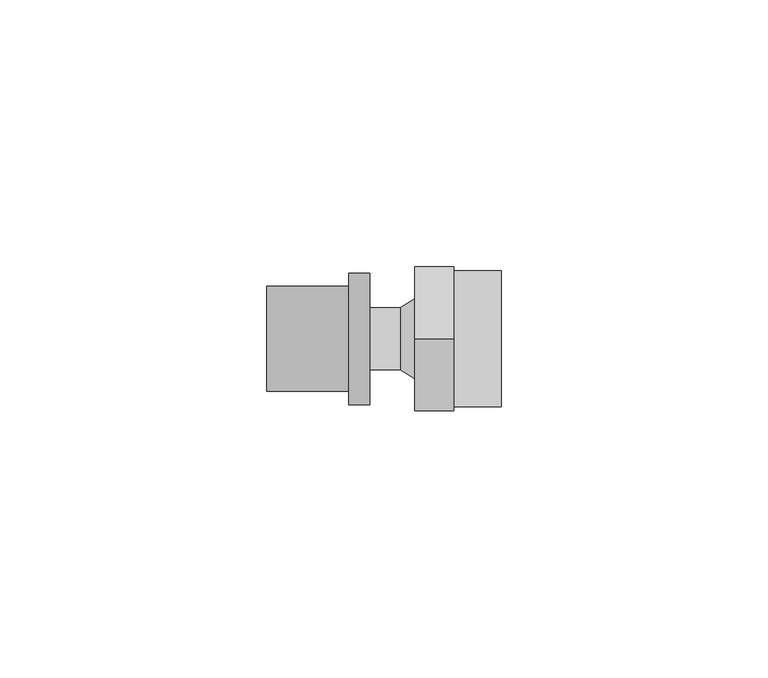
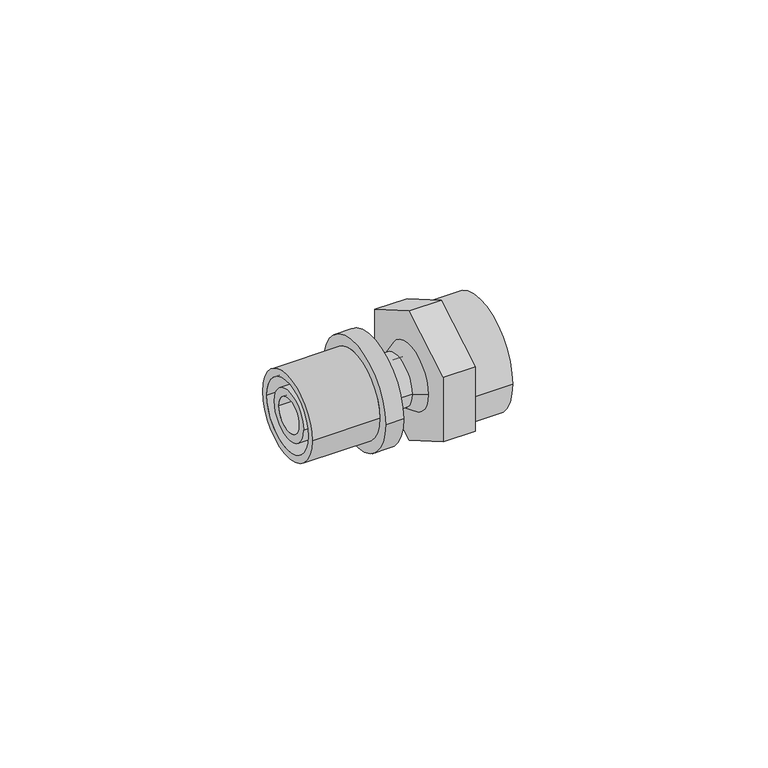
"""IFC4 building model written with IfcOpenShell, lengths in millimetres: pipe fitting geometry, FASTLOC_Adapter_EX+, with internal thread : FSL A internal AT."""

import ifcopenshell
import ifcopenshell.guid

model = None  # the IFC model being written
_history = None  # IfcOwnerHistory: only IFC2X3 demands one
_inside = {}  # id of a spatial element -> (the spatial element, [elements in it])
_under = {}  # id of a project, library or spatial element -> (it, [spatial elements below it])
_declared = {}  # id of a project -> (the project, [libraries it declares])
_typed = {}  # id of a type object -> (the type object, [elements of that type])
_made_of = {}  # id of a material, layer set ... -> (it, [elements and type objects made of it])


def new_model(schema):
    """Start an empty IFC model of exactly this schema.

    Asked for "IFC4X3", IfcOpenShell would pick the latest addendum, in which some entities
    have other attributes; the version numbers below select the first issue.
    IFC2X3 requires an IfcOwnerHistory on every rooted entity: one is made here for all.
    """
    global model, _history
    if schema == "IFC4X3":
        model = ifcopenshell.file(schema_version=(4, 3, 0, 0))
    else:
        model = ifcopenshell.file(schema=schema)
    _inside.clear()
    _under.clear()
    _declared.clear()
    _typed.clear()
    _made_of.clear()
    _history = None
    if model.schema == "IFC2X3":
        org = make("IfcOrganization", Name="unknown")
        user = make(
            "IfcPersonAndOrganization",
            ThePerson=make("IfcPerson", FamilyName="unknown"),
            TheOrganization=org,
        )
        app = make(
            "IfcApplication",
            ApplicationDeveloper=org,
            Version="unknown",
            ApplicationFullName="unknown",
            ApplicationIdentifier="unknown",
        )
        _history = make(
            "IfcOwnerHistory",
            OwningUser=user,
            OwningApplication=app,
            ChangeAction="ADDED",
            CreationDate=0,
        )
    return model


def make(cls, **values):
    """One entity of the class cls with the attributes given. An attribute that is None is left unset."""
    return model.create_entity(
        cls, **{name: value for name, value in values.items() if value is not None}
    )


def rooted(cls, **values):
    """An entity with a GlobalId (a new one), such as an element, a storey or a relation."""
    return make(cls, GlobalId=ifcopenshell.guid.new(), OwnerHistory=_history, **values)


def si_unit(unit_type, name, prefix=None):
    """IfcSIUnit, for example si_unit("LENGTHUNIT", "METRE", prefix="MILLI")."""
    return make("IfcSIUnit", UnitType=unit_type, Prefix=prefix, Name=name)


def assignment(units):
    """IfcUnitAssignment: the units of a project."""
    return None if units is None else make("IfcUnitAssignment", Units=units)


def point(xyz):
    """IfcCartesianPoint."""
    return None if xyz is None else make("IfcCartesianPoint", Coordinates=xyz)


def direction(xyz):
    """IfcDirection."""
    return None if xyz is None else make("IfcDirection", DirectionRatios=xyz)


def frame(location, z_axis=None, x_axis=None):
    """IfcAxis2Placement3D, a coordinate frame: its origin and axes. An axis left out is left unset."""
    return make(
        "IfcAxis2Placement3D",
        Location=point(location),
        Axis=direction(z_axis),
        RefDirection=direction(x_axis),
    )


def frame_2d(location, x_axis=None):
    """IfcAxis2Placement2D, a coordinate frame in the plane: its origin and x axis."""
    return make(
        "IfcAxis2Placement2D", Location=point(location), RefDirection=direction(x_axis)
    )


def origin():
    """The frame at (0, 0, 0) with its axes left unset."""
    return frame((0.0, 0.0, 0.0))


def origin_2d():
    """The frame at (0, 0) in the plane with its x axis left unset."""
    return frame_2d((0.0, 0.0))


def place(relative_to, where):
    """IfcLocalPlacement: puts the frame where relative to a parent placement (None: the world)."""
    return make(
        "IfcLocalPlacement", PlacementRelTo=relative_to, RelativePlacement=where
    )


def context(
    kind, dimensions, precision=None, world=None, true_north=None, identifier=None
):
    """IfcGeometricRepresentationContext, for example the 3D "Model" context."""
    return make(
        "IfcGeometricRepresentationContext",
        ContextIdentifier=identifier,
        ContextType=kind,
        CoordinateSpaceDimension=dimensions,
        Precision=precision,
        WorldCoordinateSystem=world,
        TrueNorth=true_north,
    )


def project(units=None, contexts=None):
    """IfcProject with its units and contexts."""
    return rooted(
        "IfcProject",
        Name="project",
        RepresentationContexts=contexts,
        UnitsInContext=assignment(units),
    )


def spatial(cls, under=None, at=None, **own):
    """A site, building, storey or space (cls), placed at a placement, below another one or the project."""
    s = rooted(cls, ObjectPlacement=at, **own)
    if under is not None:
        _under.setdefault(under.id(), (under, []))[1].append(s)
    return s


def polyline(points):
    """IfcPolyline through the points."""
    return make("IfcPolyline", Points=[point(p) for p in points])


def circle_curve(where, radius):
    """IfcCircle in the frame where."""
    return make("IfcCircle", Position=where, Radius=radius)


def trimmed(basis, trim1, trim2, sense, master):
    """IfcTrimmedCurve: the piece of a basis curve between two trims."""
    return make(
        "IfcTrimmedCurve",
        BasisCurve=basis,
        Trim1=trim1,
        Trim2=trim2,
        SenseAgreement=sense,
        MasterRepresentation=master,
    )


def segment(curve, same_sense, transition):
    """IfcCompositeCurveSegment."""
    return make(
        "IfcCompositeCurveSegment",
        Transition=transition,
        SameSense=same_sense,
        ParentCurve=curve,
    )


def composite_curve(segments, self_intersect=None):
    """IfcCompositeCurve: segments joined end to end."""
    return make("IfcCompositeCurve", Segments=segments, SelfIntersect=self_intersect)


def outline(outer, holes=None, kind="AREA"):
    """IfcArbitraryClosedProfileDef: a profile drawn as a closed curve; with holes, ...WithVoids."""
    if holes is None:
        return make("IfcArbitraryClosedProfileDef", ProfileType=kind, OuterCurve=outer)
    return make(
        "IfcArbitraryProfileDefWithVoids",
        ProfileType=kind,
        OuterCurve=outer,
        InnerCurves=holes,
    )


def extrude(swept, where, along, depth):
    """IfcExtrudedAreaSolid: the profile swept, set in the frame where, extruded along a direction by depth."""
    return make(
        "IfcExtrudedAreaSolid",
        SweptArea=swept,
        Position=where,
        ExtrudedDirection=direction(along),
        Depth=depth,
    )


def shape(context_of_items, identifier, shape_type, items):
    """IfcShapeRepresentation: the items that make up one representation, for example the "Body"."""
    return make(
        "IfcShapeRepresentation",
        ContextOfItems=context_of_items,
        RepresentationIdentifier=identifier,
        RepresentationType=shape_type,
        Items=items,
    )


def source(mapping_origin, context_of_items, identifier, shape_type, items):
    """IfcRepresentationMap: a shape defined once, which mapped items show again and again."""
    return make(
        "IfcRepresentationMap",
        MappingOrigin=mapping_origin,
        MappedRepresentation=shape(context_of_items, identifier, shape_type, items),
    )


def transform(
    local_origin,
    x_axis=None,
    y_axis=None,
    z_axis=None,
    scale=None,
    scale2=None,
    scale3=None,
    uniform=True,
):
    """IfcCartesianTransformationOperator3D, or its non-uniform kind. x_axis, y_axis, z_axis: its Axis1, 2, 3."""
    if uniform:
        return make(
            "IfcCartesianTransformationOperator3D",
            Axis1=direction(x_axis),
            Axis2=direction(y_axis),
            LocalOrigin=point(local_origin),
            Scale=scale,
            Axis3=direction(z_axis),
        )
    return make(
        "IfcCartesianTransformationOperator3DnonUniform",
        Axis1=direction(x_axis),
        Axis2=direction(y_axis),
        LocalOrigin=point(local_origin),
        Scale=scale,
        Axis3=direction(z_axis),
        Scale2=scale2,
        Scale3=scale3,
    )


def mapped(mapping_source, mapping_target):
    """IfcMappedItem: shows the shape of a source again, moved by a transform."""
    return make(
        "IfcMappedItem", MappingSource=mapping_source, MappingTarget=mapping_target
    )


def made_of(thing, what):
    """Note that an element or type object is made of a material, layer set ...; save() writes the relation."""
    if what is not None:
        _made_of.setdefault(what.id(), (what, []))[1].append(thing)
    return thing


def element(
    cls,
    number,
    at=None,
    inside=None,
    cuts=None,
    type_object=None,
    material=None,
    context=None,
    identifier="Body",
    shape_type=None,
    held_by="IfcProductDefinitionShape",
    body=None,
    shapes=None,
    **own,
):
    """One element of the class cls, such as IfcWall. Its Tag is "e" and its number.

    at: its placement. inside: the storey or other place that contains it. cuts: it is an
    opening in that element (IfcRelVoidsElement). A single representation is given by context,
    identifier, shape_type and body (its items); several are given by shapes. held_by: the class
    of the entity that holds the representations. save() writes the other relations.
    """
    e = rooted(cls, Tag="e%d" % number, ObjectPlacement=at, **own)
    if body is not None:
        shapes = [shape(context, identifier, shape_type, body)]
    if shapes is not None:
        e.Representation = make(held_by, Representations=shapes)
    if inside is not None:
        _inside.setdefault(inside.id(), (inside, []))[1].append(e)
    if cuts is not None:
        rooted(
            "IfcRelVoidsElement", RelatingBuildingElement=cuts, RelatedOpeningElement=e
        )
    if type_object is not None:
        _typed.setdefault(type_object.id(), (type_object, []))[1].append(e)
    return made_of(e, material)


def aggregate(whole, parts):
    """IfcRelAggregates: a whole, such as a stair, and the parts it consists of."""
    return rooted("IfcRelAggregates", RelatingObject=whole, RelatedObjects=parts)


def save(model, path):
    """Write the relations noted so far, then the file.

    IfcRelAggregates (storeys below a building ...), IfcRelContainedInSpatialStructure (elements
    in a storey), IfcRelDefinesByType, IfcRelAssociatesMaterial and IfcRelDeclares: one each for
    every whole, place, type object, material and project.
    """
    for whole, parts in _under.values():
        aggregate(whole, parts)
    for where, things in _inside.values():
        rooted(
            "IfcRelContainedInSpatialStructure",
            RelatedElements=things,
            RelatingStructure=where,
        )
    for kind, things in _typed.values():
        rooted("IfcRelDefinesByType", RelatedObjects=things, RelatingType=kind)
    for what, things in _made_of.values():
        rooted("IfcRelAssociatesMaterial", RelatedObjects=things, RelatingMaterial=what)
    for by, libraries in _declared.values():
        rooted("IfcRelDeclares", RelatingContext=by, RelatedDefinitions=libraries)
    model.write(path)


def plane_surface(at):
    """IfcPlane: the flat surface through the origin of the frame at, square to its z axis."""
    return make("IfcPlane", Position=at)


def cylinder_surface(at, radius):
    """IfcCylindricalSurface: all points at the distance radius from the z axis of the frame at."""
    return make("IfcCylindricalSurface", Position=at, Radius=radius)


def revolved_surface(curve, axis_point, axis_direction):
    """IfcSurfaceOfRevolution: the curve turned about the line through axis_point along axis_direction."""
    return make(
        "IfcSurfaceOfRevolution",
        SweptCurve=make("IfcArbitraryOpenProfileDef", ProfileType="CURVE", Curve=curve),
        AxisPosition=make("IfcAxis1Placement", Location=point(axis_point), Axis=direction(axis_direction)),
    )


def advanced_brep(points, edges, surfaces, faces):
    """IfcAdvancedBrep: a solid bounded by faces that lie on surfaces and meet in shared edges.

    An edge is (start, end): straight between two places in points (the first is 0);
    or (start, end, curve); or (start, end, curve, False) where it runs against its curve.
    A face is (place in surfaces, loops), or (place, loops, False) where it looks against
    its surface's normal. A loop lists edges by number (the first is 1), with a minus sign
    where the edge is run from its end to its start. The first loop is the outer one.
    """
    corners = [point(p) for p in points]
    vertices = [make("IfcVertexPoint", VertexGeometry=c) for c in corners]
    made = []
    for start, end, *more in edges:
        made.append(
            make(
                "IfcEdgeCurve",
                EdgeStart=vertices[start],
                EdgeEnd=vertices[end],
                EdgeGeometry=more[0] if more else make("IfcPolyline", Points=[corners[start], corners[end]]),
                SameSense=more[1] if len(more) > 1 else True,
            )
        )
    hull = []
    for where, loops, *sense in faces:
        bounds = []
        for j, loop in enumerate(loops):
            ring = [make("IfcOrientedEdge", EdgeElement=made[abs(k) - 1], Orientation=k > 0) for k in loop]
            bounds.append(
                make(
                    "IfcFaceOuterBound" if j == 0 else "IfcFaceBound",
                    Bound=make("IfcEdgeLoop", EdgeList=ring),
                    Orientation=True,
                )
            )
        hull.append(make("IfcAdvancedFace", Bounds=bounds, FaceSurface=surfaces[where], SameSense=sense[0] if sense else True))
    return make("IfcAdvancedBrep", Outer=make("IfcClosedShell", CfsFaces=hull))


def pipe_fitting_29307240(model_context):
    return source(origin(), model_context, "Body", "SolidModel", [
        advanced_brep(
        [(-12.4, -12.35, 0.0), (-12.4, 12.35, 0.0), (-8.4, 12.35, 0.0), (-8.4, -12.35, 0.0), (-27.7, -9.85, 0.0), (-27.7, 9.85, 0.0), (-12.4, 9.85, 0.0), (-12.4, -9.85, 0.0), (-8.4, -8.15, 0.0), (-8.4, 8.15, 0.0), (-27.7, 8.15, 0.0), (-27.7, -8.15, 0.0)],
        [
            (0, 1, circle_curve(frame((-12.4, 0.0, 0.0), z_axis=(1.0, 0.0, 0.0), x_axis=(0.0, 1.0, 0.0)), 12.35)),
            (1, 2),
            (2, 3, circle_curve(frame((-8.4, 0.0, 0.0), z_axis=(-1.0, 0.0, 0.0), x_axis=(0.0, 1.0, 0.0)), 12.35)),
            (3, 0),
            (4, 5, circle_curve(frame((-27.7, 0.0, 0.0), z_axis=(1.0, 0.0, 0.0), x_axis=(0.0, 1.0, 0.0)), 9.85)),
            (5, 6),
            (6, 7, circle_curve(frame((-12.4, 0.0, 0.0), z_axis=(-1.0, 0.0, 0.0), x_axis=(0.0, 1.0, 0.0)), 9.85)),
            (7, 4),
            (8, 9, circle_curve(frame((-8.4, 0.0, 0.0), z_axis=(1.0, 0.0, 0.0), x_axis=(0.0, 1.0, 0.0)), 8.15)),
            (9, 10),
            (10, 11, circle_curve(frame((-27.7, 0.0, 0.0), z_axis=(-1.0, 0.0, 0.0), x_axis=(0.0, 1.0, 0.0)), 8.15)),
            (11, 8),
            (1, 0, circle_curve(frame((-12.4, 0.0, 0.0), z_axis=(1.0, 0.0, 0.0), x_axis=(0.0, -1.0, 0.0)), 12.35)),
            (3, 2, circle_curve(frame((-8.4, 0.0, 0.0), z_axis=(-1.0, 0.0, 0.0), x_axis=(0.0, -1.0, 0.0)), 12.35)),
            (6, 7, circle_curve(frame((-12.4, 0.0, 0.0), z_axis=(1.0, 0.0, 0.0), x_axis=(0.0, -1.0, 0.0)), 9.85)),
            (5, 4, circle_curve(frame((-27.7, 0.0, 0.0), z_axis=(1.0, 0.0, 0.0), x_axis=(0.0, -1.0, 0.0)), 9.85)),
            (10, 11, circle_curve(frame((-27.7, 0.0, 0.0), z_axis=(1.0, 0.0, 0.0), x_axis=(0.0, -1.0, 0.0)), 8.15)),
            (9, 8, circle_curve(frame((-8.4, 0.0, 0.0), z_axis=(1.0, 0.0, 0.0), x_axis=(0.0, -1.0, 0.0)), 8.15)),
        ],
        [
            cylinder_surface(frame((-8.4, 0.0, 0.0), z_axis=(-1.0, 0.0, 0.0), x_axis=(0.0, 1.0, 0.0)), 12.35),
            cylinder_surface(frame((-8.4, 0.0, 0.0), z_axis=(-1.0, 0.0, 0.0), x_axis=(0.0, 1.0, 0.0)), 9.85),
            revolved_surface(polyline([(-27.699999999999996, 8.15, 0.0), (-8.4, 8.15, 0.0)]), (-8.4, 0.0, 0.0), (-1.0, 0.0, 0.0)),
            cylinder_surface(frame((-8.4, 0.0, 0.0), z_axis=(-1.0, 0.0, 0.0), x_axis=(0.0, -1.0, 0.0)), 12.35),
            plane_surface(frame((-12.4, 0.0, 0.0), z_axis=(-1.0, 0.0, 0.0), x_axis=(0.0, -1.0, 0.0))),
            cylinder_surface(frame((-8.4, 0.0, 0.0), z_axis=(-1.0, 0.0, 0.0), x_axis=(0.0, -1.0, 0.0)), 9.85),
            plane_surface(frame((-27.7, 0.0, 0.0), z_axis=(-1.0, 0.0, 0.0), x_axis=(0.0, -1.0, 0.0))),
            revolved_surface(polyline([(-27.699999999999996, -8.15, 0.0), (-8.4, -8.15, 0.0)]), (-8.4, 0.0, 0.0), (-1.0, 0.0, 0.0)),
            plane_surface(frame((-8.4, 0.0, 0.0), z_axis=(1.0, 0.0, 0.0), x_axis=(0.0, -1.0, 0.0))),
        ],
        [
            (0, [[1, 2, 3, 4]]),
            (1, [[5, 6, 7, 8]]),
            (2, [[9, 10, 11, 12]]),
            (3, [[13, -4, 14, -2]]),
            (4, [[-13, -1], [15, -7]]),
            (5, [[16, -8, -15, -6]]),
            (6, [[-16, -5], [17, -11]]),
            (7, [[18, -12, -17, -10]]),
            (8, [[-14, -3], [-18, -9]]),
        ],
    ),
        advanced_brep(
        [(-12.4, 5.8, 0.0), (-12.4, -5.8, 0.0), (-27.4, -5.8, 0.0), (-27.4, 5.8, 0.0), (-9.7, 7.5, 0.0), (-9.7, -7.5, 0.0), (-12.4, -7.5, 0.0), (-12.4, 7.5, 0.0), (-2.7, 5.8, 0.0), (-2.7, -5.8, 0.0), (-9.7, -5.8, 0.0), (-9.7, 5.8, 0.0), (0.0, 7.5, 0.0), (0.0, -7.5, 0.0), (-27.4, 3.95, 0.0), (-27.4, -3.95, 0.0), (0.0, -3.95, 0.0), (0.0, 3.95, 0.0)],
        [
            (0, 1, circle_curve(frame((-12.4, 0.0, 0.0), z_axis=(-1.0, 0.0, 0.0), x_axis=(0.0, -1.0, 0.0)), 5.8)),
            (1, 2),
            (2, 3, circle_curve(frame((-27.4, 0.0, 0.0), z_axis=(1.0, 0.0, 0.0), x_axis=(0.0, -1.0, 0.0)), 5.8)),
            (3, 0),
            (4, 5, circle_curve(frame((-9.7, 0.0, 0.0), z_axis=(-1.0, 0.0, 0.0), x_axis=(0.0, -1.0, 0.0)), 7.5)),
            (5, 6),
            (6, 7, circle_curve(frame((-12.4, 0.0, 0.0), z_axis=(1.0, 0.0, 0.0), x_axis=(0.0, -1.0, 0.0)), 7.5)),
            (7, 4),
            (8, 9, circle_curve(frame((-2.7, 0.0, 0.0), z_axis=(-1.0, 0.0, 0.0), x_axis=(0.0, -1.0, 0.0)), 5.8)),
            (9, 10),
            (10, 11, circle_curve(frame((-9.7, 0.0, 0.0), z_axis=(1.0, 0.0, 0.0), x_axis=(0.0, -1.0, 0.0)), 5.8)),
            (11, 8),
            (12, 13, circle_curve(frame((0.0, 0.0, 0.0), z_axis=(-1.0, 0.0, 0.0), x_axis=(0.0, -1.0, 0.0)), 7.5)),
            (13, 9),
            (8, 12),
            (14, 15, circle_curve(frame((-27.4, 0.0, 0.0), z_axis=(-1.0, 0.0, 0.0), x_axis=(0.0, -1.0, 0.0)), 3.95)),
            (15, 16),
            (16, 17, circle_curve(frame((0.0, 0.0, 0.0), z_axis=(1.0, 0.0, 0.0), x_axis=(0.0, -1.0, 0.0)), 3.95)),
            (17, 14),
            (2, 3, circle_curve(frame((-27.4, 0.0, 0.0), z_axis=(-1.0, 0.0, 0.0), x_axis=(0.0, 1.0, 0.0)), 5.8)),
            (14, 15, circle_curve(frame((-27.4, 0.0, 0.0), z_axis=(1.0, 0.0, 0.0), x_axis=(0.0, 1.0, 0.0)), 3.95)),
            (1, 0, circle_curve(frame((-12.4, 0.0, 0.0), z_axis=(-1.0, 0.0, 0.0), x_axis=(0.0, 1.0, 0.0)), 5.8)),
            (6, 7, circle_curve(frame((-12.4, 0.0, 0.0), z_axis=(-1.0, 0.0, 0.0), x_axis=(0.0, 1.0, 0.0)), 7.5)),
            (5, 4, circle_curve(frame((-9.7, 0.0, 0.0), z_axis=(-1.0, 0.0, 0.0), x_axis=(0.0, 1.0, 0.0)), 7.5)),
            (10, 11, circle_curve(frame((-9.7, 0.0, 0.0), z_axis=(-1.0, 0.0, 0.0), x_axis=(0.0, 1.0, 0.0)), 5.8)),
            (9, 8, circle_curve(frame((-2.7, 0.0, 0.0), z_axis=(-1.0, 0.0, 0.0), x_axis=(0.0, 1.0, 0.0)), 5.8)),
            (13, 12, circle_curve(frame((0.0, 0.0, 0.0), z_axis=(-1.0, 0.0, 0.0), x_axis=(0.0, 1.0, 0.0)), 7.5)),
            (16, 17, circle_curve(frame((0.0, 0.0, 0.0), z_axis=(-1.0, 0.0, 0.0), x_axis=(0.0, 1.0, 0.0)), 3.95)),
        ],
        [
            cylinder_surface(frame((0.0, 0.0, 0.0), z_axis=(1.0, 0.0, 0.0), x_axis=(0.0, -1.0, 0.0)), 5.8),
            cylinder_surface(frame((0.0, 0.0, 0.0), z_axis=(1.0, 0.0, 0.0), x_axis=(0.0, -1.0, 0.0)), 7.5),
            revolved_surface(polyline([(-2.7, -5.8, 0.0), (0.0, -7.5, 0.0)]), (0.0, 0.0, 0.0), (1.0, 0.0, 0.0)),
            revolved_surface(polyline([(0.0, -3.95, 0.0), (-27.4, -3.95, 0.0)]), (0.0, 0.0, 0.0), (1.0, 0.0, 0.0)),
            plane_surface(frame((-27.4, 0.0, 0.0), z_axis=(-1.0, 0.0, 0.0), x_axis=(0.0, 1.0, 0.0))),
            cylinder_surface(frame((0.0, 0.0, 0.0), z_axis=(1.0, 0.0, 0.0), x_axis=(0.0, 1.0, 0.0)), 5.8),
            plane_surface(frame((-12.4, 0.0, 0.0), z_axis=(-1.0, 0.0, 0.0), x_axis=(0.0, 1.0, 0.0))),
            cylinder_surface(frame((0.0, 0.0, 0.0), z_axis=(1.0, 0.0, 0.0), x_axis=(0.0, 1.0, 0.0)), 7.5),
            plane_surface(frame((-9.7, 0.0, 0.0), z_axis=(1.0, 0.0, 0.0), x_axis=(0.0, 1.0, 0.0))),
            revolved_surface(polyline([(-2.7, 5.8, 0.0), (0.0, 7.5, 0.0)]), (0.0, 0.0, 0.0), (1.0, 0.0, 0.0)),
            plane_surface(frame((0.0, 0.0, 0.0), z_axis=(1.0, 0.0, 0.0), x_axis=(0.0, 1.0, 0.0))),
            revolved_surface(polyline([(0.0, 3.95, 0.0), (-27.4, 3.95, 0.0)]), (0.0, 0.0, 0.0), (1.0, 0.0, 0.0)),
        ],
        [
            (0, [[1, 2, 3, 4]]),
            (1, [[5, 6, 7, 8]]),
            (0, [[9, 10, 11, 12]]),
            (2, [[13, 14, -9, 15]]),
            (3, [[16, 17, 18, 19]]),
            (4, [[20, -3], [21, -16]]),
            (5, [[22, -4, -20, -2]]),
            (6, [[23, -7], [-22, -1]]),
            (7, [[24, -8, -23, -6]]),
            (8, [[-24, -5], [25, -11]]),
            (5, [[26, -12, -25, -10]]),
            (9, [[27, -15, -26, -14]]),
            (10, [[-27, -13], [28, -18]]),
            (11, [[-21, -19, -28, -17]]),
        ],
    ),
        extrude(outline(polyline([(0.0, -15.5884573), (-13.5, -7.7942286), (-13.5, 7.7942286), (0.0, 15.5884573), (13.5, 7.7942286), (13.5, -7.7942286), (0.0, -15.5884573)]), holes=[composite_curve([segment(trimmed(circle_curve(origin_2d(), 3.95), [point((-3.95, 0.0))], [point((3.95, 0.0))], True, "CARTESIAN"), True, "CONTINUOUS"), segment(trimmed(circle_curve(origin_2d(), 3.95), [point((3.95, 0.0))], [point((-3.95, 0.0))], True, "CARTESIAN"), True, "CONTINUOUS")], self_intersect=False)]), frame((0.0, 0.0, 0.0), z_axis=(1.0, 0.0, 0.0), x_axis=(0.0, 1.0, 0.0)), (0.0, 0.0, 1.0), 7.3),
        extrude(outline(composite_curve([segment(trimmed(circle_curve(origin_2d(), 12.75), [point((-12.75, 0.0))], [point((12.75, 0.0))], False, "CARTESIAN"), True, "CONTINUOUS"), segment(trimmed(circle_curve(origin_2d(), 12.75), [point((12.75, 0.0))], [point((-12.75, 0.0))], False, "CARTESIAN"), True, "CONTINUOUS")], self_intersect=False), holes=[composite_curve([segment(trimmed(circle_curve(origin_2d(), 9.3), [point((-9.3, 0.0))], [point((9.3, 0.0))], True, "CARTESIAN"), True, "CONTINUOUS"), segment(trimmed(circle_curve(origin_2d(), 9.3), [point((9.3, 0.0))], [point((-9.3, 0.0))], True, "CARTESIAN"), True, "CONTINUOUS")], self_intersect=False)]), frame((7.3, 0.0, 0.0), z_axis=(1.0, 0.0, 0.0), x_axis=(0.0, 1.0, 0.0)), (0.0, 0.0, 1.0), 8.9),
    ])


if __name__ == "__main__":
    model = new_model("IFC4")
    model_context = context("Model", 3, world=origin())
    ifc_project = project(units=[si_unit("LENGTHUNIT", "METRE", prefix="MILLI")], contexts=[model_context])
    site = spatial("IfcSite", under=ifc_project)
    building = spatial("IfcBuilding", under=site)
    placement = place(None, origin())
    pipe_fitting_shape = pipe_fitting_29307240(model_context)
    element("IfcPipeFitting", 1, ObjectType="FASTLOC_Adapter_EX+, with internal thread : FSL A internal AT", at=placement, inside=building, context=model_context, shape_type="MappedRepresentation", body=[
        mapped(pipe_fitting_shape, transform((0.0, 0.0, 0.0), x_axis=(1.0, 0.0, 0.0), y_axis=(0.0, 1.0, 0.0), z_axis=(0.0, 0.0, 1.0))),
    ])
    save(model, "model.ifc")
